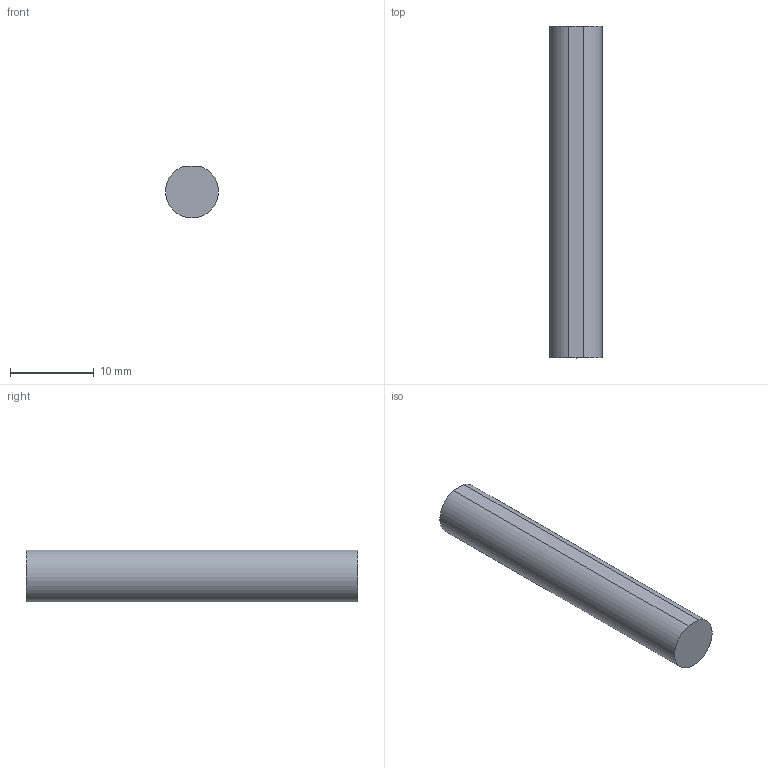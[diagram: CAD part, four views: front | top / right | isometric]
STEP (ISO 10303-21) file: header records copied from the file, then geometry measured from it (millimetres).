
FILE_DESCRIPTION (( 'STEP AP214' ), '1' );
FILE_NAME ('250_rod_5in.STEP', '2015-04-17T00:02:25', ( '' ), ( '' ), 'SwSTEP 2.0', 'SolidWorks 2012', '' );
FILE_SCHEMA (( 'AUTOMOTIVE_DESIGN' ));
Length unit declared in the file: inch
Products named in the file (1): 250_rod_5in
Bounding box: 6.34 x 39.75 x 6.22 mm (x, y, z)
Volume: 1252.9 mm3; surface area: 855.1 mm2
Topology: 1 solids, 1 shells, 5 faces, 9 edges, 6 vertices
Faces by surface type: plane 3, cylinder 2
Entity records: 180 total; most frequent: DIRECTION 25, CARTESIAN_POINT 21, ORIENTED_EDGE 18, AXIS2_PLACEMENT_3D 10, EDGE_CURVE 9, VERTEX_POINT 6, EDGE_LOOP 5, VECTOR 5
